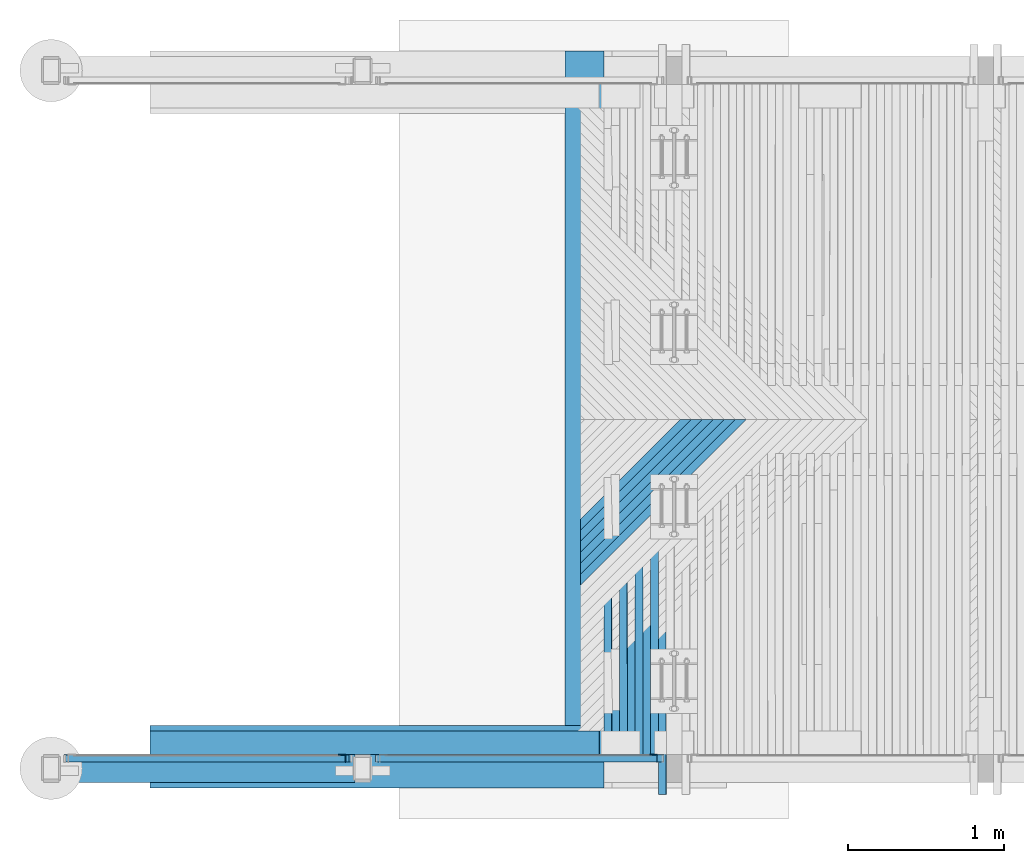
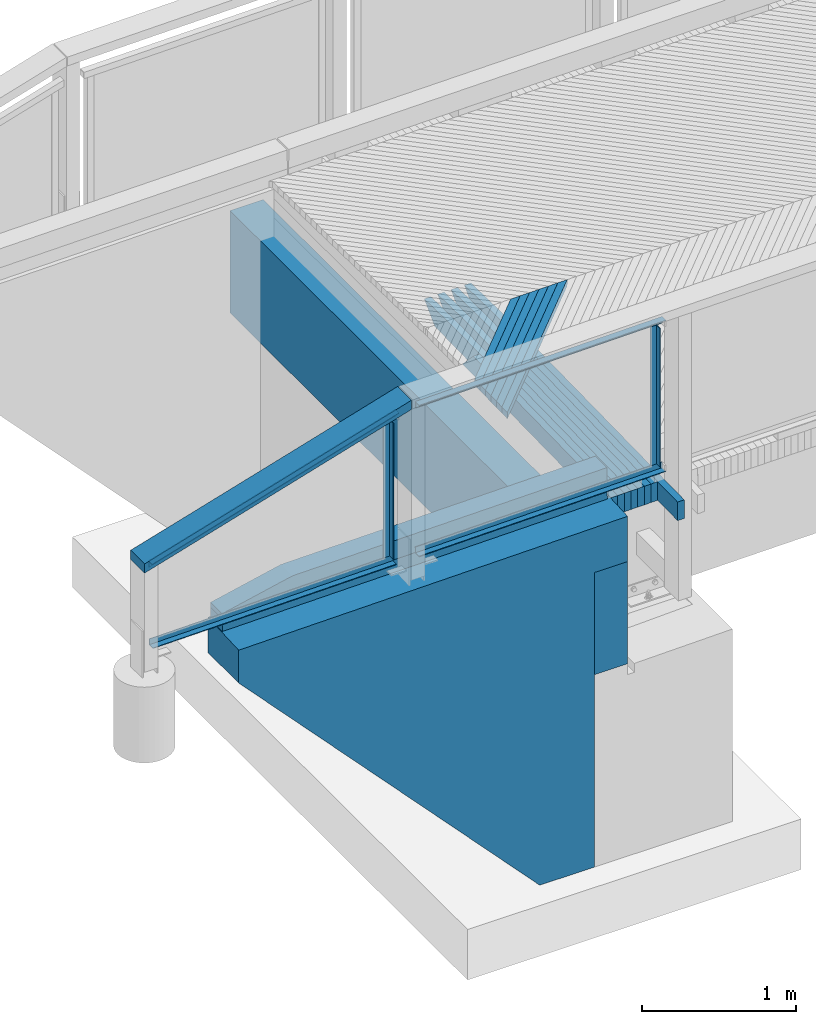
# One storey, part 16 of 65: 25 beams.
"""IFC2X3 building model written with IfcOpenShell, lengths in millimetres."""

import ifcopenshell
import ifcopenshell.guid

model = None  # the IFC model being written
_history = None  # IfcOwnerHistory: only IFC2X3 demands one
_inside = {}  # id of a spatial element -> (the spatial element, [elements in it])
_under = {}  # id of a project, library or spatial element -> (it, [spatial elements below it])
_declared = {}  # id of a project -> (the project, [libraries it declares])
_typed = {}  # id of a type object -> (the type object, [elements of that type])
_made_of = {}  # id of a material, layer set ... -> (it, [elements and type objects made of it])


def new_model(schema):
    """Start an empty IFC model of exactly this schema.

    Asked for "IFC4X3", IfcOpenShell would pick the latest addendum, in which some entities
    have other attributes; the version numbers below select the first issue.
    IFC2X3 requires an IfcOwnerHistory on every rooted entity: one is made here for all.
    """
    global model, _history
    if schema == "IFC4X3":
        model = ifcopenshell.file(schema_version=(4, 3, 0, 0))
    else:
        model = ifcopenshell.file(schema=schema)
    _inside.clear()
    _under.clear()
    _declared.clear()
    _typed.clear()
    _made_of.clear()
    _history = None
    if model.schema == "IFC2X3":
        org = make("IfcOrganization", Name="unknown")
        user = make(
            "IfcPersonAndOrganization",
            ThePerson=make("IfcPerson", FamilyName="unknown"),
            TheOrganization=org,
        )
        app = make(
            "IfcApplication",
            ApplicationDeveloper=org,
            Version="unknown",
            ApplicationFullName="unknown",
            ApplicationIdentifier="unknown",
        )
        _history = make(
            "IfcOwnerHistory",
            OwningUser=user,
            OwningApplication=app,
            ChangeAction="ADDED",
            CreationDate=0,
        )
    return model


def make(cls, **values):
    """One entity of the class cls with the attributes given. An attribute that is None is left unset."""
    return model.create_entity(
        cls, **{name: value for name, value in values.items() if value is not None}
    )


def rooted(cls, **values):
    """An entity with a GlobalId (a new one), such as an element, a storey or a relation."""
    return make(cls, GlobalId=ifcopenshell.guid.new(), OwnerHistory=_history, **values)


def si_unit(unit_type, name, prefix=None):
    """IfcSIUnit, for example si_unit("LENGTHUNIT", "METRE", prefix="MILLI")."""
    return make("IfcSIUnit", UnitType=unit_type, Prefix=prefix, Name=name)


def assignment(units):
    """IfcUnitAssignment: the units of a project."""
    return None if units is None else make("IfcUnitAssignment", Units=units)


def point(xyz):
    """IfcCartesianPoint."""
    return None if xyz is None else make("IfcCartesianPoint", Coordinates=xyz)


def direction(xyz):
    """IfcDirection."""
    return None if xyz is None else make("IfcDirection", DirectionRatios=xyz)


def frame(location, z_axis=None, x_axis=None):
    """IfcAxis2Placement3D, a coordinate frame: its origin and axes. An axis left out is left unset."""
    return make(
        "IfcAxis2Placement3D",
        Location=point(location),
        Axis=direction(z_axis),
        RefDirection=direction(x_axis),
    )


def origin_with_axes():
    """The frame at (0, 0, 0) with the z axis (0, 0, 1) and the x axis (1, 0, 0) written out."""
    return frame((0.0, 0.0, 0.0), z_axis=(0.0, 0.0, 1.0), x_axis=(1.0, 0.0, 0.0))


def place(relative_to, where):
    """IfcLocalPlacement: puts the frame where relative to a parent placement (None: the world)."""
    return make(
        "IfcLocalPlacement", PlacementRelTo=relative_to, RelativePlacement=where
    )


def context(
    kind, dimensions, precision=None, world=None, true_north=None, identifier=None
):
    """IfcGeometricRepresentationContext, for example the 3D "Model" context."""
    return make(
        "IfcGeometricRepresentationContext",
        ContextIdentifier=identifier,
        ContextType=kind,
        CoordinateSpaceDimension=dimensions,
        Precision=precision,
        WorldCoordinateSystem=world,
        TrueNorth=true_north,
    )


def subcontext(parent, identifier, kind, view, scale=None):
    """IfcGeometricRepresentationSubContext, for example "Body" below "Model"."""
    return make(
        "IfcGeometricRepresentationSubContext",
        ContextIdentifier=identifier,
        ContextType=kind,
        ParentContext=parent,
        TargetScale=scale,
        TargetView=view,
    )


def project(units=None, contexts=None):
    """IfcProject with its units and contexts."""
    return rooted(
        "IfcProject",
        Name="project",
        RepresentationContexts=contexts,
        UnitsInContext=assignment(units),
    )


def spatial(cls, under=None, at=None, **own):
    """A site, building, storey or space (cls), placed at a placement, below another one or the project."""
    s = rooted(cls, ObjectPlacement=at, **own)
    if under is not None:
        _under.setdefault(under.id(), (under, []))[1].append(s)
    return s


def faces_of(points, faces, orient=None, outer=None):
    """IfcFace entities. A face is a list of loops; a loop is a list of indices into points, from 0.

    orient and outer hold one flag for each loop. By default every Orientation is true, the
    first loop of a face is its IfcFaceOuterBound and the others are IfcFaceBound.
    """
    made = []
    for i, loops in enumerate(faces):
        bounds = []
        for j, loop in enumerate(loops):
            is_outer = j == 0 if outer is None else outer[i][j]
            bounds.append(
                make(
                    "IfcFaceOuterBound" if is_outer else "IfcFaceBound",
                    Bound=make("IfcPolyLoop", Polygon=[points[k] for k in loop]),
                    Orientation=True if orient is None else orient[i][j],
                )
            )
        made.append(make("IfcFace", Bounds=bounds))
    return made


def faceted_brep(points, faces, orient=None, outer=None, voids=None):
    """IfcFacetedBrep: a solid bounded by flat faces; with voids (closed shells), ...WithVoids."""
    shared = [point(p) for p in points]
    hull = make("IfcClosedShell", CfsFaces=faces_of(shared, faces, orient, outer))
    if voids is None:
        return make("IfcFacetedBrep", Outer=hull)
    return make(
        "IfcFacetedBrepWithVoids",
        Outer=hull,
        Voids=[
            make(cls, CfsFaces=faces_of(shared, fs, o, b)) for cls, fs, o, b in voids
        ],
    )


def shape(context_of_items, identifier, shape_type, items):
    """IfcShapeRepresentation: the items that make up one representation, for example the "Body"."""
    return make(
        "IfcShapeRepresentation",
        ContextOfItems=context_of_items,
        RepresentationIdentifier=identifier,
        RepresentationType=shape_type,
        Items=items,
    )


def material(Name=None, Category=None):
    """IfcMaterial."""
    return make("IfcMaterial", Name=Name, Category=Category)


def made_of(thing, what):
    """Note that an element or type object is made of a material, layer set ...; save() writes the relation."""
    if what is not None:
        _made_of.setdefault(what.id(), (what, []))[1].append(thing)
    return thing


def type_object(cls, material=None, **own):
    """A type object (cls), such as IfcWallType, which elements share."""
    return made_of(rooted(cls, **own), material)


def element(
    cls,
    number,
    at=None,
    inside=None,
    cuts=None,
    type_object=None,
    material=None,
    context=None,
    identifier="Body",
    shape_type=None,
    held_by="IfcProductDefinitionShape",
    body=None,
    shapes=None,
    **own,
):
    """One element of the class cls, such as IfcWall. Its Tag is "e" and its number.

    at: its placement. inside: the storey or other place that contains it. cuts: it is an
    opening in that element (IfcRelVoidsElement). A single representation is given by context,
    identifier, shape_type and body (its items); several are given by shapes. held_by: the class
    of the entity that holds the representations. save() writes the other relations.
    """
    e = rooted(cls, Tag="e%d" % number, ObjectPlacement=at, **own)
    if body is not None:
        shapes = [shape(context, identifier, shape_type, body)]
    if shapes is not None:
        e.Representation = make(held_by, Representations=shapes)
    if inside is not None:
        _inside.setdefault(inside.id(), (inside, []))[1].append(e)
    if cuts is not None:
        rooted(
            "IfcRelVoidsElement", RelatingBuildingElement=cuts, RelatedOpeningElement=e
        )
    if type_object is not None:
        _typed.setdefault(type_object.id(), (type_object, []))[1].append(e)
    return made_of(e, material)


def aggregate(whole, parts):
    """IfcRelAggregates: a whole, such as a stair, and the parts it consists of."""
    return rooted("IfcRelAggregates", RelatingObject=whole, RelatedObjects=parts)


def save(model, path):
    """Write the relations noted so far, then the file.

    IfcRelAggregates (storeys below a building ...), IfcRelContainedInSpatialStructure (elements
    in a storey), IfcRelDefinesByType, IfcRelAssociatesMaterial and IfcRelDeclares: one each for
    every whole, place, type object, material and project.
    """
    for whole, parts in _under.values():
        aggregate(whole, parts)
    for where, things in _inside.values():
        rooted(
            "IfcRelContainedInSpatialStructure",
            RelatedElements=things,
            RelatingStructure=where,
        )
    for kind, things in _typed.values():
        rooted("IfcRelDefinesByType", RelatedObjects=things, RelatingType=kind)
    for what, things in _made_of.values():
        rooted("IfcRelAssociatesMaterial", RelatedObjects=things, RelatingMaterial=what)
    for by, libraries in _declared.values():
        rooted("IfcRelDeclares", RelatingContext=by, RelatedDefinitions=libraries)
    model.write(path)


model = new_model("IFC2X3")

# Units and contexts
model_context = context("Model", 3, precision=1e-05, world=origin_with_axes())
body_context = subcontext(model_context, "Body", "Model", "MODEL_VIEW")
ifc_project = project(units=[si_unit("LENGTHUNIT", "METRE", prefix="MILLI"), si_unit("AREAUNIT", "SQUARE_METRE"), si_unit("VOLUMEUNIT", "CUBIC_METRE"), si_unit("MASSUNIT", "GRAM", prefix="KILO"), si_unit("TIMEUNIT", "SECOND"), si_unit("PLANEANGLEUNIT", "RADIAN"), si_unit("SOLIDANGLEUNIT", "STERADIAN"), si_unit("THERMODYNAMICTEMPERATUREUNIT", "DEGREE_CELSIUS"), si_unit("LUMINOUSINTENSITYUNIT", "LUMEN")], contexts=[model_context])

# Site, building, storey
site_placement = place(None, origin_with_axes())
site = spatial("IfcSite", under=ifc_project, at=site_placement, Name="Undefined", CompositionType="ELEMENT")
building_placement = place(site_placement, origin_with_axes())
building = spatial("IfcBuilding", under=site, at=building_placement, Name="Undefined", CompositionType="ELEMENT")
storey_placement = place(building_placement, origin_with_axes())
storey = spatial("IfcBuildingStorey", under=building, at=storey_placement, Name="Undefined", CompositionType="ELEMENT", Elevation=0.0)

# Beams
ifc_material_1 = material(Name="TIMBER/Timber_Undefined")
beam_type_1 = type_object("IfcBeamType", Name="150*100", PredefinedType="NOTDEFINED")
beam_1_placement = place(storey_placement, frame((-3364.03058800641, 20289.9999999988, 3118.6757290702), z_axis=(0.0, -1.0, 0.0), x_axis=(0.999904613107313, 0.0, 0.0138117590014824)))
element("IfcBeam", 1, at=beam_1_placement, inside=storey, type_object=beam_type_1, material=ifc_material_1, Name="TÖRMÄYSJOHDE", ObjectType="150*100", context=body_context, shape_type="Brep", body=[
    faceted_brep([(-3.63797880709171e-12, 50.0, -75.0), (-3.63797880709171e-12, 50.0, 75.0), (2885.27521749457, 50.0, 75.0), (2885.27521749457, 50.0, -75.0), (0.0, -49.9999999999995, 75.0), (2885.27521749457, -49.9999999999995, 75.0), (0.0, -49.9999999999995, -75.0), (2885.27521749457, -49.9999999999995, -75.0)], [[[0, 1, 2, 3]], [[1, 4, 5, 2]], [[4, 6, 7, 5]], [[6, 0, 3, 7]], [[5, 7, 3, 2]], [[6, 4, 1, 0]]]),
])
beam_type_2 = type_object("IfcBeamType", Name="150*150", PredefinedType="NOTDEFINED")
beam_2_placement = place(storey_placement, frame((-3366.03588197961, 20289.9999999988, 3243.66334439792), z_axis=(0.0, -1.0, 0.0), x_axis=(0.999904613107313, 0.0, 0.0138117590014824)))
element("IfcBeam", 2, at=beam_2_placement, inside=storey, type_object=beam_type_2, material=ifc_material_1, Name="TÖRMÄYSJOHDE", ObjectType="150*150", context=body_context, shape_type="Brep", body=[
    faceted_brep([(0.0, -75.0000000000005, 75.0), (0.0, -75.0000000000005, -75.0), (2885.27521749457, -74.9999999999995, -75.0), (2885.27521749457, -74.9999999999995, 75.0), (2885.27521749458, 75.0, -75.0), (2885.27521749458, 75.0, 75.0), (529.511118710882, 75.0, -75.0), (529.511118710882, 75.0, 75.0), (4.54747350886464e-13, -33.1222400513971, 75.0), (4.54747350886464e-13, -33.1222400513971, -75.0)], [[[0, 1, 2, 3]], [[3, 2, 4, 5]], [[5, 4, 6, 7]], [[0, 3, 5, 7, 8]], [[1, 0, 8, 9]], [[4, 2, 1, 9, 6]], [[8, 7, 6, 9]]]),
])
ifc_material_2 = material(Name="CONCRETE/Concrete_Undefined")
beam_type_3 = type_object("IfcBeamType", Name="2800*400", PredefinedType="NOTDEFINED")
beam_3_placement = place(storey_placement, frame((-430.340033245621, 20200.0, 1712.66804762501), z_axis=(-0.0140428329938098, 0.0, 0.999901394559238), x_axis=(-0.999901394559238, 0.0, -0.0140428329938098)))
element("IfcBeam", 3, at=beam_3_placement, inside=storey, type_object=beam_type_3, material=ifc_material_2, Name="SIIPIMUURI", ObjectType="2800*400", context=body_context, shape_type="Brep", body=[
    faceted_brep([(0.280884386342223, 199.999999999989, 1380.0), (3.63797880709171e-12, -200.0, 1400.0), (2915.2874638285, -200.0, 1400.0), (2915.5683481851, 200.0, 1380.0), (270.457242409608, 199.999999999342, -54.8754727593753), (270.457242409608, -200.0, -54.8754727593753), (255.29098277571, -200.0, 1025.01803336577), (255.29098277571, 199.999999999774, 1025.01803336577), (288.066954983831, 200.0, -1308.75182153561), (288.066954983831, -200.0, -1308.75182153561), (697.173583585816, 200.0, -1303.00623892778), (697.173583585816, -200.0, -1303.00623892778), (2919.22031514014, 200.0, 1119.96651154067), (2919.22031514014, -200.0, 1119.96651154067), (5.31563413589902, -200.0, 1021.50732511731), (5.31563413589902, 199.999999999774, 1021.50732511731)], [[[0, 1, 2, 3]], [[4, 5, 6, 7]], [[8, 9, 5, 4]], [[10, 11, 9, 8]], [[12, 13, 11, 10]], [[13, 12, 3, 2]], [[6, 5, 9, 11, 13, 2, 1, 14]], [[7, 6, 14, 15]], [[12, 10, 8, 4, 7, 15, 0, 3]], [[15, 14, 1, 0]]]),
])
beam_type_4 = type_object("IfcBeamType", Name="810*250", PredefinedType="NOTDEFINED")
beam_4_placement = place(storey_placement, frame((-575.0, 20000.0, 2329.0), z_axis=(0.0, 0.0, 1.0), x_axis=(0.0, 1.0, 0.0)))
element("IfcBeam", 4, at=beam_4_placement, inside=storey, type_object=beam_type_4, material=ifc_material_2, Name="OTSAMUURI", ObjectType="810*250", context=body_context, shape_type="Brep", body=[
    faceted_brep([(0.0, 125.0, -405.0), (0.0, 125.0, 405.0), (4730.0, 125.0, 405.0), (4730.0, 125.0, -405.0), (0.0, -125.0, 405.0), (4730.0, -125.0, 405.0), (0.0, -125.0, -405.0), (4730.0, -125.0, -405.0)], [[[0, 1, 2, 3]], [[1, 4, 5, 2]], [[4, 6, 7, 5]], [[6, 0, 3, 7]], [[5, 7, 3, 2]], [[6, 4, 1, 0]]]),
])
ifc_material_3 = material(Name="STEEL/S235JR")
beam_type_5 = type_object("IfcBeamType", Name="L50*5", PredefinedType="NOTDEFINED")
beam_5_placement = place(storey_placement, frame((-132.497505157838, 20190.01, 4361.7621065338), z_axis=(0.0, -1.0, 0.0), x_axis=(0.0, 0.0, -1.0)))
element("IfcBeam", 5, at=beam_5_placement, inside=storey, type_object=beam_type_5, material=ifc_material_3, Name="BEAM", ObjectType="L50*5", context=body_context, shape_type="Brep", body=[
    faceted_brep([(0.0, 25.0, -25.0), (0.0, 25.0, 25.0), (1099.99179593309, 25.0, 25.0), (1099.99179593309, 25.0, -25.0), (0.0, 20.0, 25.0), (1099.99179593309, 20.0, 25.0), (0.0, 20.0, -20.0), (1099.99179593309, 20.0, -20.0), (0.0, -25.0, -20.0), (1099.99179593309, -25.0, -20.0), (0.0, -25.0, -25.0), (1099.99179593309, -25.0, -25.0)], [[[0, 1, 2, 3]], [[1, 4, 5, 2]], [[4, 6, 7, 5]], [[6, 8, 9, 7]], [[8, 10, 11, 9]], [[10, 0, 3, 11]], [[5, 7, 9, 11, 3, 2]], [[10, 8, 6, 4, 1, 0]]]),
])
for number, where, z_axis, x_axis, name in (
    (6, (-68.3733043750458, 20190.0099999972, 3237.35231291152), (0.0, -1.0, 0.0), (-0.999888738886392, 0.0, -0.0149167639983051), "BEAM"),
    (7, (-1916.62700987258, 20190.0100000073, 4359.77241538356), (0.0, -1.0, 0.0), (0.999888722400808, 0.0, 0.0149178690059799), "BEAM"),
):
    element("IfcBeam", number, at=place(storey_placement, frame(where, z_axis=z_axis, x_axis=x_axis)), inside=storey, type_object=beam_type_5, material=ifc_material_3, Name=name, ObjectType="L50*5", context=body_context, shape_type="Brep", body=[
        faceted_brep([(0.0, 25.0, -25.0), (0.0, 25.0, 25.0), (1849.2053154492, 25.0, 25.0), (1849.2053154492, 25.0, -25.0), (0.0, 20.0, 25.0), (1849.2053154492, 20.0, 25.0), (0.0, 20.0, -20.0), (1849.2053154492, 20.0, -20.0), (0.0, -25.0, -20.0), (1849.2053154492, -24.9999999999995, -20.0), (0.0, -25.0, -25.0), (1849.2053154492, -24.9999999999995, -25.0)], [[[0, 1, 2, 3]], [[1, 4, 5, 2]], [[4, 6, 7, 5]], [[6, 8, 9, 7]], [[8, 10, 11, 9]], [[10, 0, 3, 11]], [[5, 7, 9, 11, 3, 2]], [[10, 8, 6, 4, 1, 0]]]),
    ])
beam_6_placement = place(storey_placement, frame((-2132.49750515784, 20190.01, 4313.72557561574), z_axis=(0.0, -1.0, 0.0), x_axis=(0.0, 0.0, -1.0)))
element("IfcBeam", 8, at=beam_6_placement, inside=storey, type_object=beam_type_5, material=ifc_material_3, Name="BEAM", ObjectType="L50*5", context=body_context, shape_type="Brep", body=[
    faceted_brep([(0.433759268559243, 25.0, -25.0), (0.433759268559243, 25.0, 25.0), (1081.79211420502, 25.0, 25.0), (1081.79211420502, 25.0, -25.0), (1.92634540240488, 20.0, 25.0), (1081.79211420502, 20.0, 25.0), (1.92634540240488, 20.0, -20.0), (1081.79211420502, 20.0, -20.0), (15.3596206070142, -25.0, -20.0), (1081.79211420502, -25.0, -20.0), (15.3596206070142, -25.0, -25.0), (1081.79211420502, -25.0, -25.0)], [[[0, 1, 2, 3]], [[1, 4, 5, 2]], [[4, 6, 7, 5]], [[6, 8, 9, 7]], [[8, 10, 11, 9]], [[10, 0, 3, 11]], [[5, 7, 9, 11, 3, 2]], [[10, 8, 6, 4, 1, 0]]]),
])
beam_7_placement = place(storey_placement, frame((-3911.22403870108, 20190.0100000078, 3800.9362161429), z_axis=(0.0, -1.0, 0.0), x_axis=(0.958216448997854, 0.0, 0.286044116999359)))
element("IfcBeam", 9, at=beam_7_placement, inside=storey, type_object=beam_type_5, material=ifc_material_3, Name="BEAM", ObjectType="L50*5", context=body_context, shape_type="Brep", body=[
    faceted_brep([(0.910492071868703, 24.9999999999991, -25.0), (0.910492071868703, 24.9999999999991, 25.0), (1931.58712098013, 24.9999999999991, 25.0), (1931.58712098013, 24.9999999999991, -25.0), (-0.582094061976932, 20.0, 25.0), (1930.09453484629, 19.9999999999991, 25.0), (-0.582094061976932, 20.0, -20.0), (1930.09453484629, 19.9999999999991, -20.0), (-14.0153692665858, -25.0, -20.0), (1916.66125964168, -25.0000000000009, -20.0), (-14.0153692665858, -25.0, -25.0), (1916.66125964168, -25.0000000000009, -25.0)], [[[0, 1, 2, 3]], [[1, 4, 5, 2]], [[4, 6, 7, 5]], [[6, 8, 9, 7]], [[8, 10, 11, 9]], [[10, 0, 3, 11]], [[5, 7, 9, 11, 3, 2]], [[10, 8, 6, 4, 1, 0]]]),
])
beam_8_placement = place(storey_placement, frame((-2068.37330437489, 20190.0099999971, 3207.51546483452), z_axis=(0.0, -1.0, 0.0), x_axis=(-0.999888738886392, 0.0, -0.0149167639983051)))
element("IfcBeam", 10, at=beam_8_placement, inside=storey, type_object=beam_type_5, material=ifc_material_3, Name="BEAM", ObjectType="L50*5", context=body_context, shape_type="Brep", body=[
    faceted_brep([(19.5026467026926, 24.9999999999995, -25.0), (19.5026467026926, 24.9999999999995, 25.0), (1844.70266873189, 24.9999999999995, 25.0), (1844.70266873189, 24.9999999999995, -25.0), (19.4280545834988, 20.0, 25.0), (1844.6280766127, 20.0000000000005, 25.0), (19.4280545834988, 20.0, -20.0), (1844.6280766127, 20.0000000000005, -20.0), (18.7567255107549, -25.0, -20.0), (1843.95674753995, -25.0, -20.0), (18.7567255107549, -25.0, -25.0), (1843.95674753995, -25.0, -25.0)], [[[0, 1, 2, 3]], [[1, 4, 5, 2]], [[4, 6, 7, 5]], [[6, 8, 9, 7]], [[8, 10, 11, 9]], [[10, 0, 3, 11]], [[5, 7, 9, 11, 3, 2]], [[10, 8, 6, 4, 1, 0]]]),
])
beam_type_6 = type_object("IfcBeamType", Name="180*70", PredefinedType="NOTDEFINED")
beam_9_placement = place(storey_placement, frame((-2039.93420243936, 20125.0099640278, 4517.05500293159), z_axis=(0.0, -1.0, 0.0), x_axis=(-0.958243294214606, 0.0, -0.285954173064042)))
element("IfcBeam", 11, at=beam_9_placement, inside=storey, type_object=beam_type_6, material=ifc_material_1, Name="YLÄJOHDE", ObjectType="180*70", context=body_context, shape_type="Brep", body=[
    faceted_brep([(41.6879268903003, 35.0699417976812, -90.0), (41.8028913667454, -34.9299637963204, -90.0), (0.059877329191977, -34.9999487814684, -90.0), (20.9594530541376, 35.0351891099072, -90.0), (41.8028913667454, -34.9299637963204, 90.0), (41.6879268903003, 35.0699417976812, 90.0), (20.9594530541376, 35.0351891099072, 90.0), (0.059877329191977, -34.9999487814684, 90.0), (83.4357358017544, 35.1370779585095, 90.0), (83.4357358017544, 35.1370779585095, -90.0), (83.5459100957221, -34.8628353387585, -90.0), (83.5459100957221, -34.8628353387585, 90.0), (125.288933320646, -34.7985634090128, 90.0), (125.183549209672, 35.2013572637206, 90.0), (125.183549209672, 35.2013572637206, -90.0), (125.288933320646, -34.7985634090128, -90.0), (167.031960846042, -34.7371480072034, -90.0), (167.031960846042, -34.7371480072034, 90.0), (166.931366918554, 35.2627797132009, 90.0), (166.931366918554, 35.2627797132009, -90.0), (208.679188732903, 35.3213453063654, -90.0), (208.774992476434, -34.6785891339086, -90.0), (208.774992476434, -34.6785891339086, 90.0), (208.679188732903, 35.3213453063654, 90.0), (250.427014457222, 35.3770540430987, 90.0), (250.427014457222, 35.3770540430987, -90.0), (250.518028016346, -34.6228867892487, -90.0), (250.518028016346, -34.6228867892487, 90.0), (292.261067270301, -34.57004097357, 90.0), (292.17484389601, 35.4299059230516, 90.0), (292.17484389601, 35.4299059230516, -90.0), (292.261067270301, -34.57004097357, -90.0), (334.004110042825, -34.5200516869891, -90.0), (334.004110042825, -34.5200516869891, 90.0), (333.922676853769, 35.4799009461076, 90.0), (333.922676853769, 35.4799009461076, -90.0), (375.670513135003, 35.527039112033, -90.0), (375.747156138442, -34.4729189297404, -90.0), (375.747156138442, -34.4729189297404, 90.0), (375.670513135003, 35.527039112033, 90.0), (417.418352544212, 35.5713204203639, 90.0), (417.418352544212, 35.5713204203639, -90.0), (417.490205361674, -34.428642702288, -90.0), (417.490205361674, -34.428642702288, 90.0), (459.233257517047, -34.3872230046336, 90.0), (459.166194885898, 35.6127448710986, 90.0), (459.166194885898, 35.6127448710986, -90.0), (459.233257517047, -34.3872230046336, -90.0), (500.976312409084, -34.3486598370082, -90.0), (500.976312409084, -34.3486598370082, 90.0), (500.914039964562, 35.651312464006, 90.0), (500.914039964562, 35.651312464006, -90.0), (542.661887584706, 35.6870231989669, -90.0), (542.71936984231, -34.3129531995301, -90.0), (542.71936984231, -34.3129531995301, 90.0), (542.661887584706, 35.6870231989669, 90.0), (584.409737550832, 35.7198770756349, 90.0), (584.409737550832, 35.7198770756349, -90.0), (584.462429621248, -34.2801030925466, -90.0), (584.462429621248, -34.2801030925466, 90.0), (626.205491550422, -34.2501095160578, 90.0), (626.157589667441, 35.7498740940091, 90.0), (626.157589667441, 35.7498740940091, -90.0), (626.205491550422, -34.2501095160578, -90.0), (667.948555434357, -34.222972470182, -90.0), (667.948555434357, -34.222972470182, 90.0), (667.905443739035, 35.777014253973, 90.0), (667.905443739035, 35.777014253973, -90.0), (709.653299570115, 35.801297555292, -90.0), (709.691621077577, -34.19869195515, -90.0), (709.691621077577, -34.19869195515, 90.0), (709.653299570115, 35.801297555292, 90.0), (751.401156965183, 35.8227239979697, 90.0), (751.401156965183, 35.8227239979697, -90.0), (751.434688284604, -34.1772679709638, -90.0), (751.434688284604, -34.1772679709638, 90.0), (793.177756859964, -34.1587005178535, 90.0), (793.14901572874, 35.8412935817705, 90.0), (793.14901572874, 35.8412935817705, -90.0), (793.177756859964, -34.1587005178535, -90.0), (834.920826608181, -34.1429895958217, -90.0), (834.920826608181, -34.1429895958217, 90.0), (834.896875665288, 35.8570063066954, 90.0), (834.896875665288, 35.8570063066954, -90.0), (876.644736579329, 35.8698621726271, -90.0), (876.663897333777, -34.1301352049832, -90.0), (876.663897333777, -34.1301352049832, 90.0), (876.644736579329, 35.8698621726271, 90.0), (918.392598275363, 35.8798611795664, 90.0), (918.392598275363, 35.8798611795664, -90.0), (918.406968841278, -34.1201373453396, -90.0), (918.406968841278, -34.1201373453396, 90.0), (960.150040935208, -34.1129960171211, 90.0), (960.140460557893, 35.8870033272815, 90.0), (960.140460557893, 35.8870033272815, -90.0), (960.150040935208, -34.1129960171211, -90.0), (1001.89311342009, -34.1087112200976, -90.0), (1001.89311342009, -34.1087112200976, 90.0), (1001.88832323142, 35.8912886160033, 90.0), (1001.88832323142, 35.8912886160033, -90.0), (1043.63618610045, 35.8927170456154, -90.0), (1043.63618610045, -34.1072829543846, -90.0), (1043.63618610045, -34.1072829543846, 90.0), (1043.63618610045, 35.8927170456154, 90.0), (1085.38404896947, 35.8912886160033, 90.0), (1085.38404896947, 35.8912886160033, -90.0), (1085.3792587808, -34.1087112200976, -90.0), (1085.3792587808, -34.1087112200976, 90.0), (1127.12233126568, -34.1129960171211, 90.0), (1127.131911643, 35.8870033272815, 90.0), (1127.131911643, 35.8870033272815, -90.0), (1127.12233126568, -34.1129960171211, -90.0), (1168.86540335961, -34.1201373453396, -90.0), (1168.86540335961, -34.1201373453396, 90.0), (1168.87977392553, 35.8798611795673, 90.0), (1168.87977392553, 35.8798611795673, -90.0), (1210.62763562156, 35.8698621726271, -90.0), (1210.60847486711, -34.1301352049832, -90.0), (1210.60847486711, -34.1301352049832, 90.0), (1210.62763562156, 35.8698621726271, 90.0), (1252.3754965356, 35.8570063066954, 90.0), (1252.3754965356, 35.8570063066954, -90.0), (1252.35154559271, -34.1429895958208, -90.0), (1252.35154559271, -34.1429895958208, 90.0), (1294.09461534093, -34.1587005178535, 90.0), (1294.12335647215, 35.8412935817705, 90.0), (1294.12335647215, 35.8412935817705, -90.0), (1294.09461534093, -34.1587005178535, -90.0), (1335.83768391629, -34.1772679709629, -90.0), (1335.83768391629, -34.1772679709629, 90.0), (1335.87121523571, 35.8227239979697, 90.0), (1335.87121523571, 35.8227239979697, -90.0), (1377.61907263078, 35.8012975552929, -90.0), (1377.58075112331, -34.1986919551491, -90.0), (1377.58075112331, -34.1986919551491, 90.0), (1377.61907263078, 35.8012975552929, 90.0), (1419.36692846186, 35.777014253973, 90.0), (1419.36692846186, 35.777014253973, -90.0), (1419.32381676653, -34.222972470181, -90.0), (1419.32381676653, -34.222972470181, 90.0), (1461.06688065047, -34.2501095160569, 90.0), (1461.11478253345, 35.7498740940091, 90.0), (1461.11478253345, 35.7498740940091, -90.0), (1461.06688065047, -34.2501095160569, -90.0), (1502.80994257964, -34.2801030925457, -90.0), (1502.80994257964, -34.2801030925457, 90.0), (1502.86263465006, 35.7198770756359, 90.0), (1502.86263465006, 35.7198770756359, -90.0), (1544.61048461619, 35.6870231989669, -90.0), (1544.55300235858, -34.3129531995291, -90.0), (1544.55300235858, -34.3129531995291, 90.0), (1544.61048461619, 35.6870231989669, 90.0), (1586.35833223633, 35.6513124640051, 90.0), (1586.35833223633, 35.6513124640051, -90.0), (1586.29605979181, -34.3486598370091, -90.0), (1586.29605979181, -34.3486598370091, 90.0), (1628.03911468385, -34.3872230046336, 90.0), (1628.10617731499, 35.6127448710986, 90.0), (1628.10617731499, 35.6127448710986, -90.0), (1628.03911468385, -34.3872230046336, -90.0), (1669.78216683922, -34.428642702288, -90.0), (1669.78216683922, -34.428642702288, 90.0), (1669.85401965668, 35.5713204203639, 90.0), (1669.85401965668, 35.5713204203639, -90.0), (1711.60185906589, 35.527039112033, -90.0), (1711.52521606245, -34.4729189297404, -90.0), (1711.52521606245, -34.4729189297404, 90.0), (1711.60185906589, 35.527039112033, 90.0), (1753.34969534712, 35.4799009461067, 90.0), (1753.34969534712, 35.4799009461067, -90.0), (1753.26826215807, -34.5200516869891, -90.0), (1753.26826215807, -34.5200516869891, 90.0), (1795.01130493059, -34.5700409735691, 90.0), (1795.09752830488, 35.4299059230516, 90.0), (1795.09752830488, 35.4299059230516, -90.0), (1795.01130493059, -34.5700409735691, -90.0), (1836.75434418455, -34.6228867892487, -90.0), (1836.75434418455, -34.6228867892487, 90.0), (1836.84535774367, 35.3770540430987, 90.0), (1836.84535774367, 35.3770540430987, -90.0), (1878.59318346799, 35.3213453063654, -90.0), (1878.49737972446, -34.6785891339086, -90.0), (1878.49737972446, -34.6785891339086, 90.0), (1878.59318346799, 35.3213453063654, 90.0), (1920.34100528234, 35.2627797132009, 90.0), (1920.34100528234, 35.2627797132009, -90.0), (1920.24041135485, -34.7371480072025, -90.0), (1920.24041135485, -34.7371480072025, 90.0), (1961.98343888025, -34.7985634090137, 90.0), (1962.08882299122, 35.2013572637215, 90.0), (1962.08882299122, 35.2013572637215, -90.0), (1961.98343888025, -34.7985634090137, -90.0), (2003.72646210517, -34.8628353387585, -90.0), (2003.72646210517, -34.8628353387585, 90.0), (2003.83663639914, 35.1370779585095, 90.0), (2003.83663639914, 35.1370779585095, -90.0), (2045.58444531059, 35.0699417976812, -90.0), (2045.46948083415, -34.9299637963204, -90.0), (2045.46948083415, -34.9299637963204, 90.0), (2045.58444531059, 35.0699417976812, 90.0), (2087.33224953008, 34.9999487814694, 90.0), (2087.33224953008, 34.9999487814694, -90.0), (2087.2124948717, -34.9999487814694, -90.0), (2087.2124948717, -34.9999487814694, 90.0), (2108.09074494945, 34.9637252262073, 90.0), (2108.09074494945, 34.9637252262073, -90.0)], [[[0, 1, 2, 3]], [[4, 5, 6, 7]], [[1, 4, 7, 2]], [[6, 3, 2, 7]], [[5, 0, 3, 6]], [[0, 5, 8, 9]], [[1, 0, 9, 10]], [[4, 1, 10, 11]], [[5, 4, 11, 8]], [[8, 11, 12, 13]], [[9, 8, 13, 14]], [[10, 9, 14, 15]], [[11, 10, 15, 12]], [[12, 15, 16, 17]], [[13, 12, 17, 18]], [[14, 13, 18, 19]], [[15, 14, 19, 16]], [[16, 19, 20, 21]], [[17, 16, 21, 22]], [[18, 17, 22, 23]], [[19, 18, 23, 20]], [[20, 23, 24, 25]], [[21, 20, 25, 26]], [[22, 21, 26, 27]], [[23, 22, 27, 24]], [[24, 27, 28, 29]], [[25, 24, 29, 30]], [[26, 25, 30, 31]], [[27, 26, 31, 28]], [[28, 31, 32, 33]], [[29, 28, 33, 34]], [[30, 29, 34, 35]], [[31, 30, 35, 32]], [[32, 35, 36, 37]], [[33, 32, 37, 38]], [[34, 33, 38, 39]], [[35, 34, 39, 36]], [[36, 39, 40, 41]], [[37, 36, 41, 42]], [[38, 37, 42, 43]], [[39, 38, 43, 40]], [[40, 43, 44, 45]], [[41, 40, 45, 46]], [[42, 41, 46, 47]], [[43, 42, 47, 44]], [[44, 47, 48, 49]], [[45, 44, 49, 50]], [[46, 45, 50, 51]], [[47, 46, 51, 48]], [[48, 51, 52, 53]], [[49, 48, 53, 54]], [[50, 49, 54, 55]], [[51, 50, 55, 52]], [[52, 55, 56, 57]], [[53, 52, 57, 58]], [[54, 53, 58, 59]], [[55, 54, 59, 56]], [[56, 59, 60, 61]], [[57, 56, 61, 62]], [[58, 57, 62, 63]], [[59, 58, 63, 60]], [[60, 63, 64, 65]], [[61, 60, 65, 66]], [[62, 61, 66, 67]], [[63, 62, 67, 64]], [[64, 67, 68, 69]], [[65, 64, 69, 70]], [[66, 65, 70, 71]], [[67, 66, 71, 68]], [[68, 71, 72, 73]], [[69, 68, 73, 74]], [[70, 69, 74, 75]], [[71, 70, 75, 72]], [[72, 75, 76, 77]], [[73, 72, 77, 78]], [[74, 73, 78, 79]], [[75, 74, 79, 76]], [[76, 79, 80, 81]], [[77, 76, 81, 82]], [[78, 77, 82, 83]], [[79, 78, 83, 80]], [[80, 83, 84, 85]], [[81, 80, 85, 86]], [[82, 81, 86, 87]], [[83, 82, 87, 84]], [[84, 87, 88, 89]], [[85, 84, 89, 90]], [[86, 85, 90, 91]], [[87, 86, 91, 88]], [[88, 91, 92, 93]], [[89, 88, 93, 94]], [[90, 89, 94, 95]], [[91, 90, 95, 92]], [[92, 95, 96, 97]], [[93, 92, 97, 98]], [[94, 93, 98, 99]], [[95, 94, 99, 96]], [[96, 99, 100, 101]], [[97, 96, 101, 102]], [[98, 97, 102, 103]], [[99, 98, 103, 100]], [[100, 103, 104, 105]], [[101, 100, 105, 106]], [[102, 101, 106, 107]], [[103, 102, 107, 104]], [[104, 107, 108, 109]], [[105, 104, 109, 110]], [[106, 105, 110, 111]], [[107, 106, 111, 108]], [[108, 111, 112, 113]], [[109, 108, 113, 114]], [[110, 109, 114, 115]], [[111, 110, 115, 112]], [[112, 115, 116, 117]], [[113, 112, 117, 118]], [[114, 113, 118, 119]], [[115, 114, 119, 116]], [[116, 119, 120, 121]], [[117, 116, 121, 122]], [[118, 117, 122, 123]], [[119, 118, 123, 120]], [[120, 123, 124, 125]], [[121, 120, 125, 126]], [[122, 121, 126, 127]], [[123, 122, 127, 124]], [[124, 127, 128, 129]], [[125, 124, 129, 130]], [[126, 125, 130, 131]], [[127, 126, 131, 128]], [[128, 131, 132, 133]], [[129, 128, 133, 134]], [[130, 129, 134, 135]], [[131, 130, 135, 132]], [[132, 135, 136, 137]], [[133, 132, 137, 138]], [[134, 133, 138, 139]], [[135, 134, 139, 136]], [[136, 139, 140, 141]], [[137, 136, 141, 142]], [[138, 137, 142, 143]], [[139, 138, 143, 140]], [[140, 143, 144, 145]], [[141, 140, 145, 146]], [[142, 141, 146, 147]], [[143, 142, 147, 144]], [[144, 147, 148, 149]], [[145, 144, 149, 150]], [[146, 145, 150, 151]], [[147, 146, 151, 148]], [[148, 151, 152, 153]], [[149, 148, 153, 154]], [[150, 149, 154, 155]], [[151, 150, 155, 152]], [[152, 155, 156, 157]], [[153, 152, 157, 158]], [[154, 153, 158, 159]], [[155, 154, 159, 156]], [[156, 159, 160, 161]], [[157, 156, 161, 162]], [[158, 157, 162, 163]], [[159, 158, 163, 160]], [[160, 163, 164, 165]], [[161, 160, 165, 166]], [[162, 161, 166, 167]], [[163, 162, 167, 164]], [[164, 167, 168, 169]], [[165, 164, 169, 170]], [[166, 165, 170, 171]], [[167, 166, 171, 168]], [[168, 171, 172, 173]], [[169, 168, 173, 174]], [[170, 169, 174, 175]], [[171, 170, 175, 172]], [[172, 175, 176, 177]], [[173, 172, 177, 178]], [[174, 173, 178, 179]], [[175, 174, 179, 176]], [[176, 179, 180, 181]], [[177, 176, 181, 182]], [[178, 177, 182, 183]], [[179, 178, 183, 180]], [[180, 183, 184, 185]], [[181, 180, 185, 186]], [[182, 181, 186, 187]], [[183, 182, 187, 184]], [[184, 187, 188, 189]], [[185, 184, 189, 190]], [[186, 185, 190, 191]], [[187, 186, 191, 188]], [[188, 191, 192, 193]], [[189, 188, 193, 194]], [[190, 189, 194, 195]], [[191, 190, 195, 192]], [[192, 195, 196, 197]], [[193, 192, 197, 198]], [[194, 193, 198, 199]], [[195, 194, 199, 196]], [[196, 199, 200, 201]], [[197, 196, 201, 202]], [[198, 197, 202, 203]], [[199, 198, 203, 200]], [[200, 203, 204]], [[201, 200, 204, 205]], [[201, 205, 202]], [[204, 203, 202, 205]]]),
])
beam_type_7 = type_object("IfcBeamType", Name="50*50", PredefinedType="NOTDEFINED")
beam_10_placement = place(storey_placement, frame((73.4729104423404, 22364.5001003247, 3183.9450845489), z_axis=(0.70722262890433, -0.706981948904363, -0.0035604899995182), x_axis=(-0.706832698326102, -0.706948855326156, -0.0247154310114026)))
element("IfcBeam", 12, at=beam_10_placement, inside=storey, type_object=beam_type_7, material=ifc_material_1, Name="BEAM", ObjectType="50*50", context=body_context, shape_type="Brep", body=[
    faceted_brep([(23.4806436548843, -24.9999999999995, -25.0000000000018), (-26.4222658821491, -25.0000000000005, 25.0), (-25.0086637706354, 24.9999999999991, 25.0), (24.8942457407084, 25.0000000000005, -25.0000000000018), (928.319039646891, 24.9999999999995, -24.9999999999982), (927.26106091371, -25.0000000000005, -25.0), (977.288643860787, -25.0000000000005, 25.0), (978.346622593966, 24.9999999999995, 24.9999999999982)], [[[0, 1, 2, 3]], [[0, 3, 4, 5]], [[1, 0, 5, 6]], [[2, 1, 6, 7]], [[3, 2, 7, 4]], [[6, 5, 4, 7]]]),
])
beam_11_placement = place(storey_placement, frame((144.191069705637, 22364.5001003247, 3184.87198634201), z_axis=(0.707222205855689, -0.706981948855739, -0.00364356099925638), x_axis=(-0.706835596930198, -0.706948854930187, -0.0246324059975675)))
element("IfcBeam", 13, at=beam_11_placement, inside=storey, type_object=beam_type_7, material=ifc_material_1, Name="BEAM", ObjectType="50*50", context=body_context, shape_type="Brep", body=[
    faceted_brep([(23.4806436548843, -24.9999999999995, -25.0000000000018), (-26.4222658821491, -25.0000000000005, 25.0), (-25.0086637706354, 24.9999999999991, 25.0), (24.8942457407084, 25.0000000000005, -25.0000000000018), (1028.36004453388, 25.0, -25.0), (1027.310376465, -25.0000000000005, -24.9999999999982), (1077.33772433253, -25.0000000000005, 24.9999999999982), (1078.38739240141, 25.0, 25.0)], [[[0, 1, 2, 3]], [[0, 3, 4, 5]], [[1, 0, 5, 6]], [[2, 1, 6, 7]], [[3, 2, 7, 4]], [[6, 5, 4, 7]]]),
])
beam_12_placement = place(storey_placement, frame((214.909337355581, 22364.5001003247, 3185.79058152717), z_axis=(0.707221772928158, -0.706981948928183, -0.00372663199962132), x_axis=(-0.706838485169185, -0.706948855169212, -0.024549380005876)))
element("IfcBeam", 14, at=beam_12_placement, inside=storey, type_object=beam_type_7, material=ifc_material_1, Name="BEAM", ObjectType="50*50", context=body_context, shape_type="Brep", body=[
    faceted_brep([(23.4806436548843, -24.9999999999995, -25.0000000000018), (-26.4222658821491, -25.0000000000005, 25.0), (-25.0086637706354, 24.9999999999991, 25.0), (24.8942457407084, 25.0000000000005, -25.0000000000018), (1128.40039913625, 25.0000000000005, -25.0), (1127.35904169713, -24.9999999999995, -25.0000000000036), (1177.38615452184, -24.9999999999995, 24.9999999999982), (1178.42751196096, 25.0000000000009, 25.0)], [[[0, 1, 2, 3]], [[0, 3, 4, 5]], [[1, 0, 5, 6]], [[2, 1, 6, 7]], [[3, 2, 7, 4]], [[6, 5, 4, 7]]]),
])
beam_13_placement = place(storey_placement, frame((285.627712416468, 22364.5001003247, 3186.70087009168), z_axis=(0.707221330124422, -0.706981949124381, -0.00380970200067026), x_axis=(-0.70684136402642, -0.706948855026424, -0.0244663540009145)))
element("IfcBeam", 15, at=beam_13_placement, inside=storey, type_object=beam_type_7, material=ifc_material_1, Name="BEAM", ObjectType="50*50", context=body_context, shape_type="Brep", body=[
    faceted_brep([(23.4806436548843, -24.9999999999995, -25.0000000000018), (-26.4222658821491, -25.0000000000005, 25.0), (-25.0086637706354, 24.9999999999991, 25.0), (24.8942457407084, 25.0000000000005, -25.0000000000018), (1228.44010482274, 24.9999999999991, -25.0000000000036), (1227.40705788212, -25.0, -25.0000000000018), (1277.43393563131, -25.0, 24.9999999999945), (1278.46698257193, 24.9999999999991, 24.9999999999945)], [[[0, 1, 2, 3]], [[0, 3, 4, 5]], [[1, 0, 5, 6]], [[2, 1, 6, 7]], [[3, 2, 7, 4]], [[6, 5, 4, 7]]]),
])
beam_14_placement = place(storey_placement, frame((356.346193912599, 22364.5001003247, 3187.60285202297), z_axis=(0.707220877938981, -0.706981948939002, -0.00389277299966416), x_axis=(-0.706844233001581, -0.706948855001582, -0.0243833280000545)))
element("IfcBeam", 16, at=beam_14_placement, inside=storey, type_object=beam_type_7, material=ifc_material_1, Name="BEAM", ObjectType="50*50", context=body_context, shape_type="Brep", body=[
    faceted_brep([(23.4806436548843, -24.9999999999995, -25.0000000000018), (-26.4222658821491, -25.0000000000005, 25.0), (-25.0086637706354, 24.9999999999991, 25.0), (24.8942457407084, 25.0000000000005, -25.0000000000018), (1328.47916507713, 25.0, -25.0000000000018), (1327.45442860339, -25.0, -25.0000000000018), (1377.48107131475, -25.0, 24.9999999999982), (1378.50580778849, 24.9999999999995, 25.0)], [[[0, 1, 2, 3]], [[0, 3, 4, 5]], [[1, 0, 5, 6]], [[2, 1, 6, 7]], [[3, 2, 7, 4]], [[6, 5, 4, 7]]]),
])
beam_15_placement = place(storey_placement, frame((427.06478086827, 22364.5001003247, 3188.49652730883), z_axis=(0.707220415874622, -0.706981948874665, -0.0039758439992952), x_axis=(-0.706847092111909, -0.706948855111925, -0.0243003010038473)))
element("IfcBeam", 17, at=beam_15_placement, inside=storey, type_object=beam_type_7, material=ifc_material_1, Name="BEAM", ObjectType="50*50", context=body_context, shape_type="Brep", body=[
    faceted_brep([(23.4806436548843, -24.9999999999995, -25.0000000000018), (-26.4222658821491, -25.0000000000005, 25.0), (-25.0086637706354, 24.9999999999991, 25.0), (24.8942457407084, 25.0000000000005, -25.0000000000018), (1428.51758270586, 24.9999999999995, -25.0000000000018), (1427.50115666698, -25.0000000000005, -25.0000000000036), (1477.52756434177, -25.0000000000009, 24.9999999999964), (1478.54399038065, 24.9999999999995, 24.9999999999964)], [[[0, 1, 2, 3]], [[0, 3, 4, 5]], [[1, 0, 5, 6]], [[2, 1, 6, 7]], [[3, 2, 7, 4]], [[6, 5, 4, 7]]]),
])
beam_type_8 = type_object("IfcBeamType", Name="150*50", PredefinedType="NOTDEFINED")
for number, where, z_axis, x_axis, name in (
    (18, (-424.616337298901, 20216.5046076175, 3034.19173150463), (-0.0139093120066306, -0.0199960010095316, 0.999703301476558), (-0.000278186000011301, 0.999800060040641, 0.0199940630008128), "BEAM"),
    (19, (-324.626337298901, 20216.5046076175, 3035.58173150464), (-0.0139093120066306, -0.0199960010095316, 0.999703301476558), (-0.000278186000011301, 0.999800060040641, 0.0199940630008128), "BEAM"),
    (20, (-224.615754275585, 20216.5046076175, 3036.95660402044), (-0.0137432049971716, -0.0199960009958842, 0.999705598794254), (-0.000274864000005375, 0.999800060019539, 0.0199941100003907), "BEAM"),
    (21, (-124.60494419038, 20216.5046076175, 3038.31485922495), (-0.0135770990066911, -0.019996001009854, 0.999707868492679), (-0.000271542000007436, 0.999800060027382, 0.0199941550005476), "BEAM"),
):
    element("IfcBeam", number, at=place(storey_placement, frame(where, z_axis=z_axis, x_axis=x_axis)), inside=storey, type_object=beam_type_8, material=ifc_material_1, Name=name, ObjectType="150*50", context=body_context, shape_type="Brep", body=[
        faceted_brep([(-1.6778358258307e-07, -24.9999999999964, -74.9999999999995), (1.67790858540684e-07, -24.9999999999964, 75.0000000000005), (1.67790858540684e-07, 25.0000000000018, 74.9999999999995), (-1.6778358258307e-07, 25.0000000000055, -75.0), (1928.42646353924, -25.0, -75.0000000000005), (1789.96936433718, -25.0000000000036, 74.9999999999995), (1789.96936408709, 24.9999999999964, 75.0), (1928.42646328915, 24.9999999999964, -75.0)], [[[0, 1, 2, 3]], [[1, 0, 4, 5]], [[2, 1, 5, 6]], [[3, 2, 6, 7]], [[0, 3, 7, 4]], [[7, 6, 5, 4]]]),
    ])
for number, where, z_axis, x_axis, name in (
    (22, (-374.621498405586, 20216.5046076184, 3034.88612679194), (-0.0139093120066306, -0.0199960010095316, 0.999703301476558), (-0.000278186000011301, 0.999800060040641, 0.0199940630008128), "BEAM"),
    (23, (-274.611030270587, 20216.5046076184, 3036.26930628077), (-0.0137432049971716, -0.0199960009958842, 0.999705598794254), (-0.000274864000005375, 0.999800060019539, 0.0199941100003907), "BEAM"),
    (24, (-174.600333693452, 20216.5046076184, 3037.6358684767), (-0.0135770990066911, -0.019996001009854, 0.999707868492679), (-0.000271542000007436, 0.999800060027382, 0.0199941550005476), "BEAM"),
):
    element("IfcBeam", number, at=place(storey_placement, frame(where, z_axis=z_axis, x_axis=x_axis)), inside=storey, type_object=beam_type_8, material=ifc_material_1, Name=name, ObjectType="150*50", context=body_context, shape_type="Brep", body=[
        faceted_brep([(-1.6778358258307e-07, -24.9999999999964, -74.9999999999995), (1.67790858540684e-07, -24.9999999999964, 75.0000000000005), (1.67790858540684e-07, 25.0000000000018, 74.9999999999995), (-1.6778358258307e-07, 25.0000000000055, -75.0), (2375.00494422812, 25.0000000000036, -75.0), (2375.00494447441, -24.9999999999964, -74.9999999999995), (2510.59248714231, -24.9999999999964, 60.5875430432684), (2150.42514405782, -24.9999999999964, 75.0000000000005), (2150.42515052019, 25.0000000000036, 74.9999999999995), (2510.59248715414, 25.0000000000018, 60.5875433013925)], [[[0, 1, 2, 3]], [[0, 3, 4, 5]], [[1, 0, 5, 6, 7]], [[2, 1, 7, 8]], [[4, 3, 2, 8, 9]], [[5, 4, 9, 6]], [[6, 9, 8, 7]]]),
    ])
beam_16_placement = place(storey_placement, frame((-74.5202106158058, 19958.5561921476, 3033.82730974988), z_axis=(-0.0134109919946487, -0.0199960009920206, 0.999710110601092), x_axis=(-0.00026822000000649, 0.999800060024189, 0.0199942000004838)))
element("IfcBeam", 25, at=beam_16_placement, inside=storey, type_object=beam_type_8, material=ifc_material_1, Name="BEAM", ObjectType="150*50", context=body_context, shape_type="Brep", body=[
    faceted_brep([(-1.6778358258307e-07, -24.9999999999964, -74.9999999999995), (1.67790858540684e-07, -24.9999999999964, 75.0000000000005), (1.67790858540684e-07, 25.0000000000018, 74.9999999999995), (-1.6778358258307e-07, 25.0000000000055, -75.0), (2633.00494750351, 24.9999999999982, -74.9999999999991), (2633.00494763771, -25.0000000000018, -74.9999999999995), (2768.59248713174, -25.0000000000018, 60.5875397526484), (2408.42506549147, -25.0000000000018, 75.0000000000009), (2408.42500056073, 25.0, 75.0), (2768.59248710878, 24.9999999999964, 60.587539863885)], [[[0, 1, 2, 3]], [[0, 3, 4, 5]], [[1, 0, 5, 6, 7]], [[2, 1, 7, 8]], [[4, 3, 2, 8, 9]], [[5, 4, 9, 6]], [[8, 7, 6, 9]]]),
])

save(model, "model.ifc")
